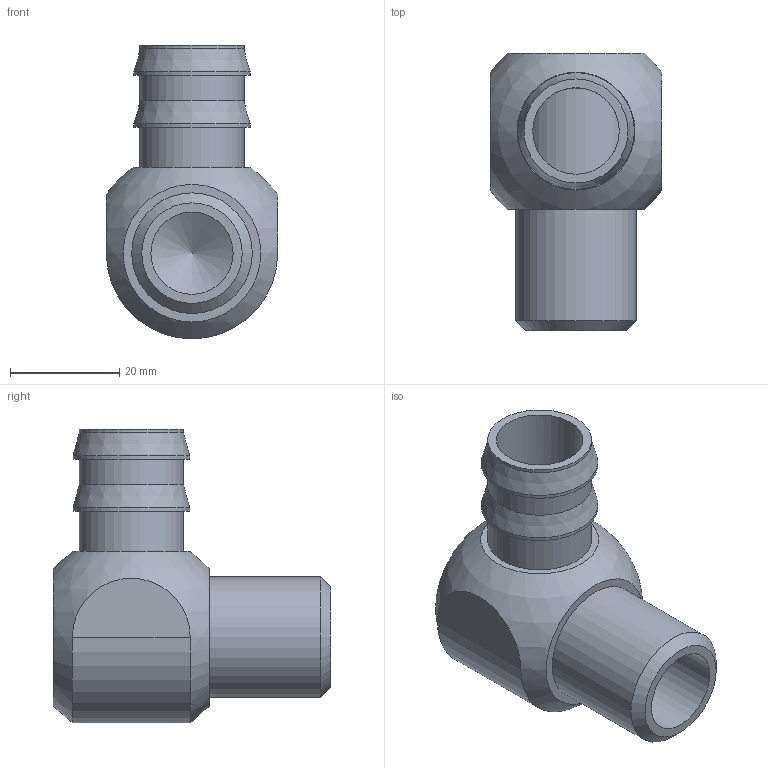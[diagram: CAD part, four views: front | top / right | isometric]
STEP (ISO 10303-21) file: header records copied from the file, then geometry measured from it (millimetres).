
FILE_DESCRIPTION(/* description */ (''),/* implementation_level */ '2;1');
FILE_NAME(/* name */ 'C:/Users/drich/Desktop/WJ50-S v1.step',/* time_stamp */ '2019-12-29T15:38:40-06:00',/* author */ (''),/* organization */ (''),/* preprocessor_version */ 'ST-DEVELOPER v18',/* originating_system */ 'Autodesk Translation Framework v8.12.0.6',/* authorisation */ '');
FILE_SCHEMA (('AUTOMOTIVE_DESIGN { 1 0 10303 214 3 1 1 }'));
Length unit declared in the file: inch
Products named in the file (2): WJ50-S; WJ50-S SHAFT
Assembly tree (1 placements, depth 2):
  WJ50-S
    WJ50-S SHAFT
Bounding box: 31.39 x 50.8 x 53.8 mm (x, y, z)
Volume: 25182.4 mm3; surface area: 13953.4 mm2
Topology: 2 solids, 2 shells, 34 faces, 84 edges, 61 vertices
Faces by surface type: plane 18, cylinder 11, cone 4, sphere 1
Full cylindrical faces by diameter (mm): 15.062 x1, 15.85 x1, 19.05 x3, 21.336 x3, 21.463 x1, 22.095 x1
Entity records: 1159 total; most frequent: CARTESIAN_POINT 223, DIRECTION 202, ORIENTED_EDGE 166, AXIS2_PLACEMENT_3D 84, EDGE_CURVE 83, VERTEX_POINT 61, CIRCLE 47, EDGE_LOOP 46
